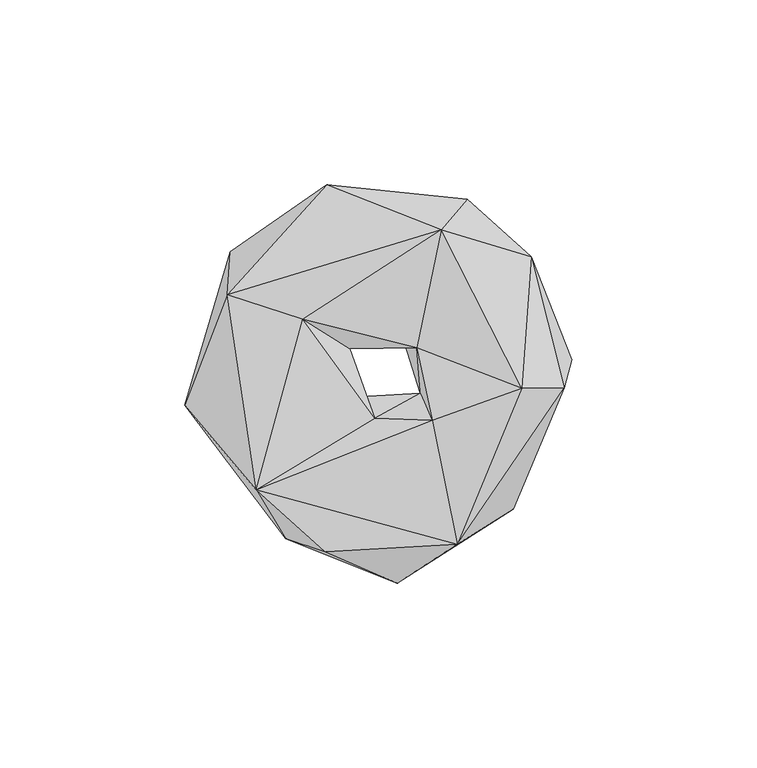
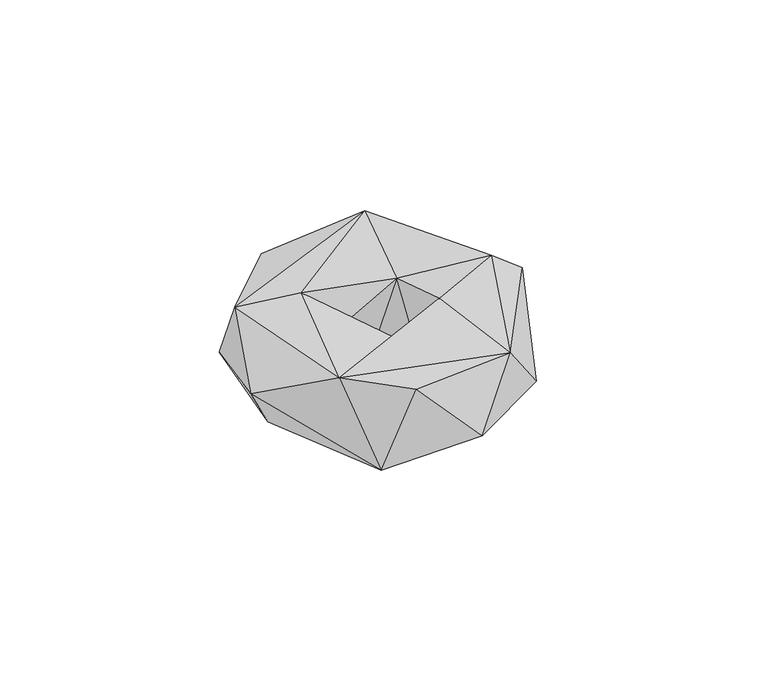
"""IFC4 building model written with IfcOpenShell, lengths in millimetres: geographic element geometry, Enscape AssetDefinition - Pastry 09 : Enscape AssetDefinition - Pastry 09."""

import ifcopenshell
import ifcopenshell.guid

model = None  # the IFC model being written
_history = None  # IfcOwnerHistory: only IFC2X3 demands one
_inside = {}  # id of a spatial element -> (the spatial element, [elements in it])
_under = {}  # id of a project, library or spatial element -> (it, [spatial elements below it])
_declared = {}  # id of a project -> (the project, [libraries it declares])
_typed = {}  # id of a type object -> (the type object, [elements of that type])
_made_of = {}  # id of a material, layer set ... -> (it, [elements and type objects made of it])


def new_model(schema):
    """Start an empty IFC model of exactly this schema.

    Asked for "IFC4X3", IfcOpenShell would pick the latest addendum, in which some entities
    have other attributes; the version numbers below select the first issue.
    IFC2X3 requires an IfcOwnerHistory on every rooted entity: one is made here for all.
    """
    global model, _history
    if schema == "IFC4X3":
        model = ifcopenshell.file(schema_version=(4, 3, 0, 0))
    else:
        model = ifcopenshell.file(schema=schema)
    _inside.clear()
    _under.clear()
    _declared.clear()
    _typed.clear()
    _made_of.clear()
    _history = None
    if model.schema == "IFC2X3":
        org = make("IfcOrganization", Name="unknown")
        user = make(
            "IfcPersonAndOrganization",
            ThePerson=make("IfcPerson", FamilyName="unknown"),
            TheOrganization=org,
        )
        app = make(
            "IfcApplication",
            ApplicationDeveloper=org,
            Version="unknown",
            ApplicationFullName="unknown",
            ApplicationIdentifier="unknown",
        )
        _history = make(
            "IfcOwnerHistory",
            OwningUser=user,
            OwningApplication=app,
            ChangeAction="ADDED",
            CreationDate=0,
        )
    return model


def make(cls, **values):
    """One entity of the class cls with the attributes given. An attribute that is None is left unset."""
    return model.create_entity(
        cls, **{name: value for name, value in values.items() if value is not None}
    )


def rooted(cls, **values):
    """An entity with a GlobalId (a new one), such as an element, a storey or a relation."""
    return make(cls, GlobalId=ifcopenshell.guid.new(), OwnerHistory=_history, **values)


def si_unit(unit_type, name, prefix=None):
    """IfcSIUnit, for example si_unit("LENGTHUNIT", "METRE", prefix="MILLI")."""
    return make("IfcSIUnit", UnitType=unit_type, Prefix=prefix, Name=name)


def assignment(units):
    """IfcUnitAssignment: the units of a project."""
    return None if units is None else make("IfcUnitAssignment", Units=units)


def point(xyz):
    """IfcCartesianPoint."""
    return None if xyz is None else make("IfcCartesianPoint", Coordinates=xyz)


def direction(xyz):
    """IfcDirection."""
    return None if xyz is None else make("IfcDirection", DirectionRatios=xyz)


def frame(location, z_axis=None, x_axis=None):
    """IfcAxis2Placement3D, a coordinate frame: its origin and axes. An axis left out is left unset."""
    return make(
        "IfcAxis2Placement3D",
        Location=point(location),
        Axis=direction(z_axis),
        RefDirection=direction(x_axis),
    )


def origin():
    """The frame at (0, 0, 0) with its axes left unset."""
    return frame((0.0, 0.0, 0.0))


def place(relative_to, where):
    """IfcLocalPlacement: puts the frame where relative to a parent placement (None: the world)."""
    return make(
        "IfcLocalPlacement", PlacementRelTo=relative_to, RelativePlacement=where
    )


def context(
    kind, dimensions, precision=None, world=None, true_north=None, identifier=None
):
    """IfcGeometricRepresentationContext, for example the 3D "Model" context."""
    return make(
        "IfcGeometricRepresentationContext",
        ContextIdentifier=identifier,
        ContextType=kind,
        CoordinateSpaceDimension=dimensions,
        Precision=precision,
        WorldCoordinateSystem=world,
        TrueNorth=true_north,
    )


def project(units=None, contexts=None):
    """IfcProject with its units and contexts."""
    return rooted(
        "IfcProject",
        Name="project",
        RepresentationContexts=contexts,
        UnitsInContext=assignment(units),
    )


def spatial(cls, under=None, at=None, **own):
    """A site, building, storey or space (cls), placed at a placement, below another one or the project."""
    s = rooted(cls, ObjectPlacement=at, **own)
    if under is not None:
        _under.setdefault(under.id(), (under, []))[1].append(s)
    return s


def faces_of(points, faces, orient=None, outer=None):
    """IfcFace entities. A face is a list of loops; a loop is a list of indices into points, from 0.

    orient and outer hold one flag for each loop. By default every Orientation is true, the
    first loop of a face is its IfcFaceOuterBound and the others are IfcFaceBound.
    """
    made = []
    for i, loops in enumerate(faces):
        bounds = []
        for j, loop in enumerate(loops):
            is_outer = j == 0 if outer is None else outer[i][j]
            bounds.append(
                make(
                    "IfcFaceOuterBound" if is_outer else "IfcFaceBound",
                    Bound=make("IfcPolyLoop", Polygon=[points[k] for k in loop]),
                    Orientation=True if orient is None else orient[i][j],
                )
            )
        made.append(make("IfcFace", Bounds=bounds))
    return made


def faceted_brep(points, faces, orient=None, outer=None, voids=None):
    """IfcFacetedBrep: a solid bounded by flat faces; with voids (closed shells), ...WithVoids."""
    shared = [point(p) for p in points]
    hull = make("IfcClosedShell", CfsFaces=faces_of(shared, faces, orient, outer))
    if voids is None:
        return make("IfcFacetedBrep", Outer=hull)
    return make(
        "IfcFacetedBrepWithVoids",
        Outer=hull,
        Voids=[
            make(cls, CfsFaces=faces_of(shared, fs, o, b)) for cls, fs, o, b in voids
        ],
    )


def shape(context_of_items, identifier, shape_type, items):
    """IfcShapeRepresentation: the items that make up one representation, for example the "Body"."""
    return make(
        "IfcShapeRepresentation",
        ContextOfItems=context_of_items,
        RepresentationIdentifier=identifier,
        RepresentationType=shape_type,
        Items=items,
    )


def source(mapping_origin, context_of_items, identifier, shape_type, items):
    """IfcRepresentationMap: a shape defined once, which mapped items show again and again."""
    return make(
        "IfcRepresentationMap",
        MappingOrigin=mapping_origin,
        MappedRepresentation=shape(context_of_items, identifier, shape_type, items),
    )


def transform(
    local_origin,
    x_axis=None,
    y_axis=None,
    z_axis=None,
    scale=None,
    scale2=None,
    scale3=None,
    uniform=True,
):
    """IfcCartesianTransformationOperator3D, or its non-uniform kind. x_axis, y_axis, z_axis: its Axis1, 2, 3."""
    if uniform:
        return make(
            "IfcCartesianTransformationOperator3D",
            Axis1=direction(x_axis),
            Axis2=direction(y_axis),
            LocalOrigin=point(local_origin),
            Scale=scale,
            Axis3=direction(z_axis),
        )
    return make(
        "IfcCartesianTransformationOperator3DnonUniform",
        Axis1=direction(x_axis),
        Axis2=direction(y_axis),
        LocalOrigin=point(local_origin),
        Scale=scale,
        Axis3=direction(z_axis),
        Scale2=scale2,
        Scale3=scale3,
    )


def mapped(mapping_source, mapping_target):
    """IfcMappedItem: shows the shape of a source again, moved by a transform."""
    return make(
        "IfcMappedItem", MappingSource=mapping_source, MappingTarget=mapping_target
    )


def made_of(thing, what):
    """Note that an element or type object is made of a material, layer set ...; save() writes the relation."""
    if what is not None:
        _made_of.setdefault(what.id(), (what, []))[1].append(thing)
    return thing


def element(
    cls,
    number,
    at=None,
    inside=None,
    cuts=None,
    type_object=None,
    material=None,
    context=None,
    identifier="Body",
    shape_type=None,
    held_by="IfcProductDefinitionShape",
    body=None,
    shapes=None,
    **own,
):
    """One element of the class cls, such as IfcWall. Its Tag is "e" and its number.

    at: its placement. inside: the storey or other place that contains it. cuts: it is an
    opening in that element (IfcRelVoidsElement). A single representation is given by context,
    identifier, shape_type and body (its items); several are given by shapes. held_by: the class
    of the entity that holds the representations. save() writes the other relations.
    """
    e = rooted(cls, Tag="e%d" % number, ObjectPlacement=at, **own)
    if body is not None:
        shapes = [shape(context, identifier, shape_type, body)]
    if shapes is not None:
        e.Representation = make(held_by, Representations=shapes)
    if inside is not None:
        _inside.setdefault(inside.id(), (inside, []))[1].append(e)
    if cuts is not None:
        rooted(
            "IfcRelVoidsElement", RelatingBuildingElement=cuts, RelatedOpeningElement=e
        )
    if type_object is not None:
        _typed.setdefault(type_object.id(), (type_object, []))[1].append(e)
    return made_of(e, material)


def aggregate(whole, parts):
    """IfcRelAggregates: a whole, such as a stair, and the parts it consists of."""
    return rooted("IfcRelAggregates", RelatingObject=whole, RelatedObjects=parts)


def save(model, path):
    """Write the relations noted so far, then the file.

    IfcRelAggregates (storeys below a building ...), IfcRelContainedInSpatialStructure (elements
    in a storey), IfcRelDefinesByType, IfcRelAssociatesMaterial and IfcRelDeclares: one each for
    every whole, place, type object, material and project.
    """
    for whole, parts in _under.values():
        aggregate(whole, parts)
    for where, things in _inside.values():
        rooted(
            "IfcRelContainedInSpatialStructure",
            RelatedElements=things,
            RelatingStructure=where,
        )
    for kind, things in _typed.values():
        rooted("IfcRelDefinesByType", RelatedObjects=things, RelatingType=kind)
    for what, things in _made_of.values():
        rooted("IfcRelAssociatesMaterial", RelatedObjects=things, RelatingMaterial=what)
    for by, libraries in _declared.values():
        rooted("IfcRelDeclares", RelatingContext=by, RelatedDefinitions=libraries)
    model.write(path)


def geographic_element_bb1f53bf(model_context):
    return source(origin(), model_context, "Body", "Brep", [
        faceted_brep([(-13.0679999, 8.1829997, 2.3099999), (-7.456, 6.786, 21.4990005), (-9.4769998, -6.4829998, 5.8510001), (10.6790001, 7.0930002, 31.3149989), (-20.0800002, 14.7409998, 31.7239985), (-0.639, -12.0409997, 23.5670004), (6.1110002, 12.4970004, 5.8240001), (-32.6940008, -31.3239992, 31.1019998), (-40.5559987, 21.4319993, 29.1910004), (17.4400005, 39.0250012, 35.8639993), (14.9229998, -12.5879999, 33.8990018), (11.7450003, -5.1779998, 8.5530002), (21.7129998, -46.0509993, 30.6650009), (39.1689986, -3.9269999, 37.0250009), (37.1039994, -17.7870002, -0.776), (-24.7620009, -44.6199998, 0.478), (-42.0680009, -2.2710001, -0.347), (-52.0440005, -8.4509999, 17.8539995), (-39.6750011, 33.0700018, 4.3779998), (7.0039998, 45.1520011, 0.194), (-13.6740003, 51.1949994, 22.6220004), (24.3980009, 47.2959988, 8.5359998), (41.7429991, 31.7719989, 17.918), (52.7490005, 3.8429999, 13.8450004), (50.7199988, -3.701, 27.8370008), (36.8690006, -36.6280004, 8.684), (5.4080002, -56.6440001, 10.6290001), (-13.9549999, -48.0590016, 30.1789995)], [[[0, 1, 2]], [[1, 3, 4]], [[5, 1, 4]], [[3, 1, 6]], [[1, 5, 2]], [[6, 1, 0]], [[7, 5, 4]], [[4, 8, 7]], [[9, 4, 3]], [[4, 9, 8]], [[5, 10, 11]], [[11, 2, 5]], [[7, 10, 5]], [[11, 10, 3]], [[12, 10, 7]], [[10, 13, 3]], [[12, 13, 10]], [[6, 11, 3]], [[2, 11, 14]], [[11, 6, 14]], [[2, 14, 15]], [[16, 2, 15]], [[16, 0, 2]], [[17, 18, 16]], [[18, 0, 16]], [[15, 17, 16]], [[0, 18, 19]], [[6, 0, 19]], [[18, 20, 19]], [[20, 18, 8]], [[17, 8, 18]], [[15, 7, 17]], [[17, 7, 8]], [[20, 8, 9]], [[19, 20, 21]], [[21, 20, 9]], [[6, 19, 14]], [[19, 21, 14]], [[9, 22, 21]], [[21, 22, 23]], [[14, 21, 23]], [[9, 13, 22]], [[9, 3, 13]], [[13, 24, 22]], [[24, 23, 22]], [[25, 14, 23]], [[24, 25, 23]], [[26, 15, 14]], [[26, 14, 25]], [[26, 25, 12]], [[25, 24, 12]], [[24, 13, 12]], [[27, 12, 7]], [[27, 26, 12]], [[26, 27, 15]], [[15, 27, 7]]]),
    ])


if __name__ == "__main__":
    model = new_model("IFC4")
    model_context = context("Model", 3, world=origin())
    ifc_project = project(units=[si_unit("LENGTHUNIT", "METRE", prefix="MILLI")], contexts=[model_context])
    site = spatial("IfcSite", under=ifc_project)
    building = spatial("IfcBuilding", under=site)
    placement = place(None, origin())
    geographic_element_shape = geographic_element_bb1f53bf(model_context)
    element("IfcGeographicElement", 1, ObjectType="Enscape AssetDefinition - Pastry 09 : Enscape AssetDefinition - Pastry 09", at=placement, inside=building, context=model_context, shape_type="MappedRepresentation", body=[
        mapped(geographic_element_shape, transform((0.0, 0.0, 0.0), x_axis=(1.0, 0.0, 0.0), y_axis=(0.0, 1.0, 0.0), z_axis=(0.0, 0.0, 1.0))),
    ])
    save(model, "model.ifc")
